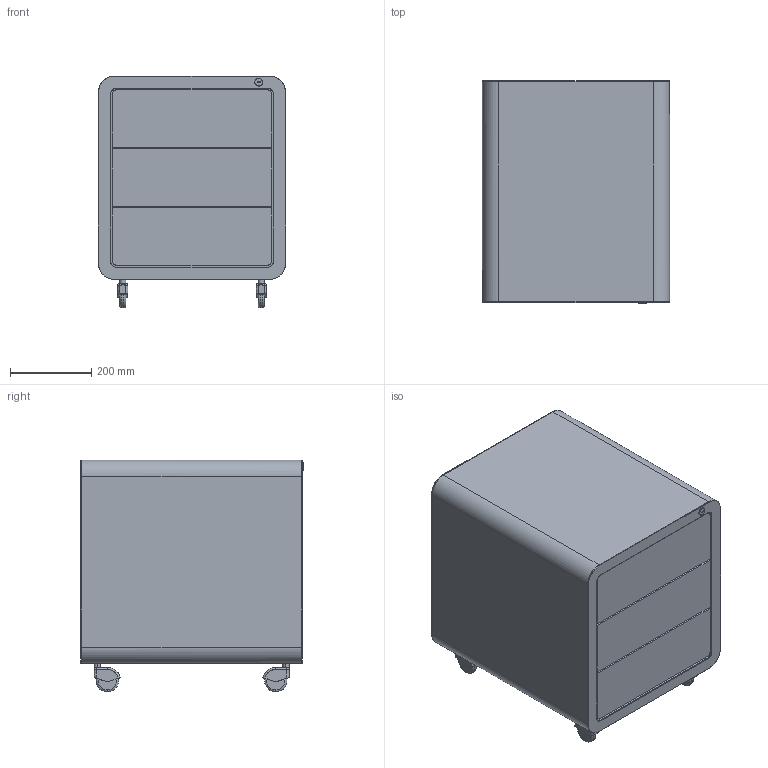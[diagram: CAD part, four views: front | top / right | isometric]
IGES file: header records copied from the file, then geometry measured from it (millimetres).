
Start section: Comment
Global section: file name: R20.igs; native system:  By UGS Corp.; preprocessor: XPlus GENERIC/IGES 3.0; author: Author; organization: Title; date: 20161104.123157; units: inch
Bounding box: 460 x 547.2 x 570 mm (x, y, z)
Surface area: 2209586.3 mm2 (no closed solid volume)
Topology: 0 solids, 0 shells, 204 faces, 1032 edges, 1016 vertices
Faces by surface type: bspline 204
